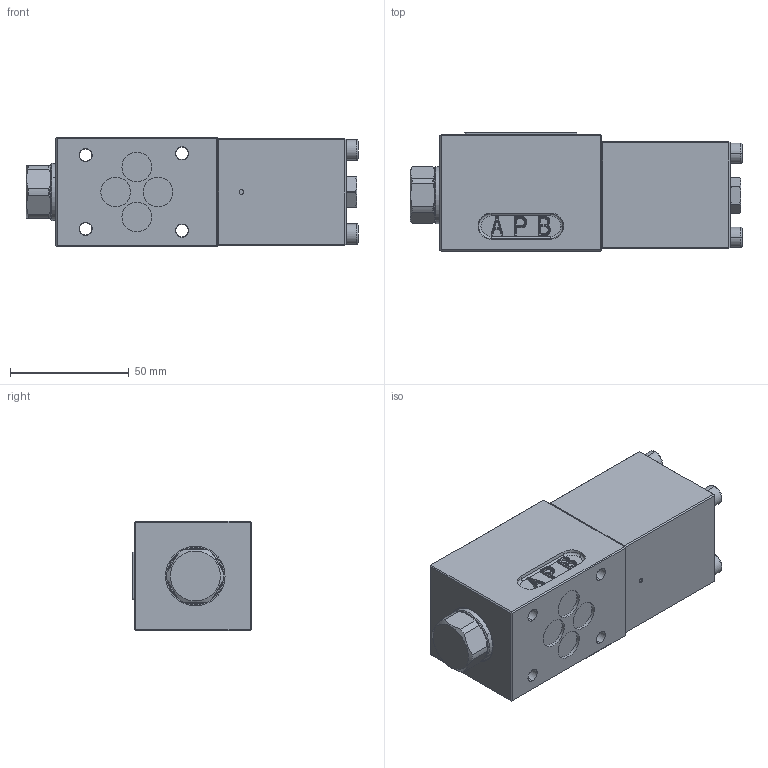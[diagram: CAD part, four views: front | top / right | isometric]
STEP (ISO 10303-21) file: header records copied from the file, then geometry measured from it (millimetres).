
FILE_DESCRIPTION (( 'STEP AP214' ), '1' );
FILE_NAME ('WDLFA06-4_2-Bside.STEP', '2021-09-23T13:33:28', ( '' ), ( '' ), 'SwSTEP 2.0', 'SolidWorks 2020', '' );
FILE_SCHEMA (( 'AUTOMOTIVE_DESIGN' ));
Length unit declared in the file: millimetre
Products named in the file (1): WDLFA06-4_2-Bside
Bounding box: 139.6 x 49.8 x 46 mm (x, y, z)
Volume: 261728.9 mm3; surface area: 33617.3 mm2
Topology: 1 solids, 1 shells, 498 faces, 1189 edges, 715 vertices
Faces by surface type: plane 212, cylinder 156, cone 40, torus 36, bspline 36, sphere 18
Entity records: 21324 total; most frequent: CARTESIAN_POINT 4725, DIRECTION 2373, ORIENTED_EDGE 2328, EDGE_CURVE 1164, AXIS2_PLACEMENT_3D 886, VERTEX_POINT 715, LINE 601, VECTOR 601
